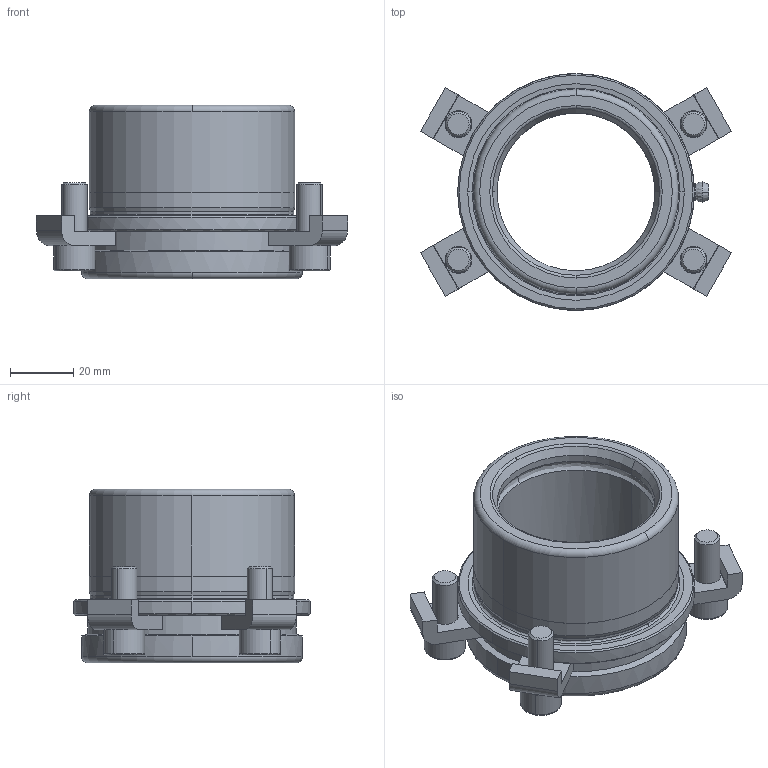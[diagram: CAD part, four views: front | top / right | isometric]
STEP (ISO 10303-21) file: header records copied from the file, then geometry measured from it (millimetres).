
FILE_DESCRIPTION((''),'2;1');
FILE_NAME('B10_050_020.stp','2008-11-06T09:04:19',(''),(''),'Mechanical Desktop 2009','Mechanical Desktop 2009',', , ');
FILE_SCHEMA(('CONFIG_CONTROL_DESIGN'));
Length unit declared in the file: millimetre
Products named in the file (2): Product; blmdl1
Assembly tree (1 placements, depth 2):
  Product
    blmdl1
Bounding box: 98.54 x 75 x 55 mm (x, y, z)
Volume: 96124.5 mm3; surface area: 34838.2 mm2
Topology: 10 solids, 10 shells, 202 faces, 510 edges, 337 vertices
Faces by surface type: plane 83, cylinder 61, cone 22, bspline 18, torus 18
Entity records: 7444 total; most frequent: CARTESIAN_POINT 2344, DIRECTION 1110, ORIENTED_EDGE 1012, EDGE_CURVE 506, AXIS2_PLACEMENT_3D 442, VERTEX_POINT 335, CIRCLE 256, VECTOR 226
